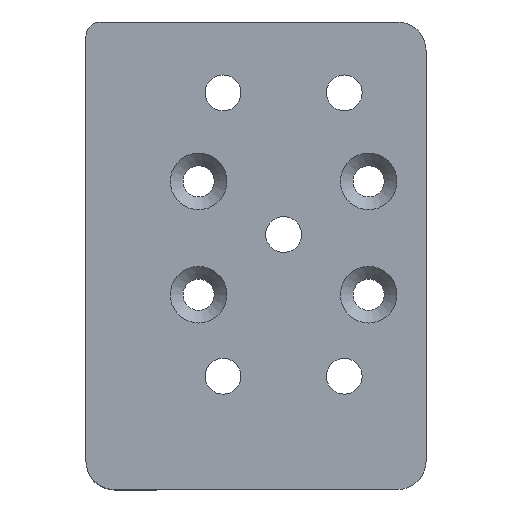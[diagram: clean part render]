
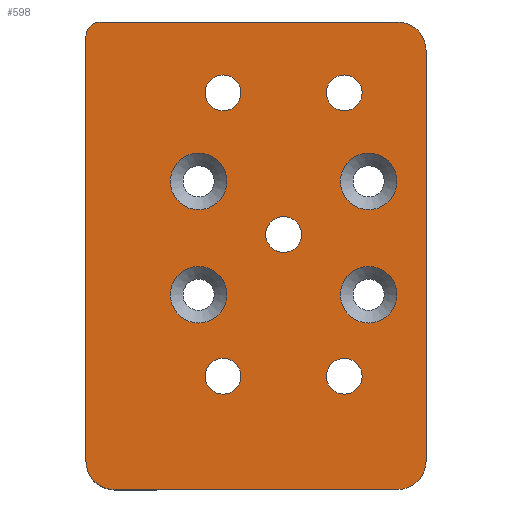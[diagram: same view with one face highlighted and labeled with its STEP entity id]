
A CAD part, top view. The second image highlights one B-rep face of the part: STEP entity #598.
In plain terms, the highlighted planar face has unit normal (0, 0, 1).
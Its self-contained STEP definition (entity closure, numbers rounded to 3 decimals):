
#30=FACE_BOUND('',#126,.T.);
#31=FACE_BOUND('',#127,.T.);
#32=FACE_BOUND('',#128,.T.);
#33=FACE_BOUND('',#129,.T.);
#34=FACE_BOUND('',#130,.T.);
#35=FACE_BOUND('',#131,.T.);
#36=FACE_BOUND('',#132,.T.);
#37=FACE_BOUND('',#133,.T.);
#38=FACE_BOUND('',#134,.T.);
#50=PLANE('',#680);
#82=FACE_OUTER_BOUND('',#125,.T.);
#125=EDGE_LOOP('',(#534,#535,#536,#537,#538,#539,#540,#541));
#126=EDGE_LOOP('',(#542));
#127=EDGE_LOOP('',(#543));
#128=EDGE_LOOP('',(#544));
#129=EDGE_LOOP('',(#545));
#130=EDGE_LOOP('',(#546));
#131=EDGE_LOOP('',(#547));
#132=EDGE_LOOP('',(#548));
#133=EDGE_LOOP('',(#549));
#134=EDGE_LOOP('',(#550));
#141=LINE('',#884,#185);
#147=LINE('',#919,#191);
#156=LINE('',#946,#200);
#178=LINE('',#1026,#222);
#185=VECTOR('',#699,10.);
#191=VECTOR('',#733,10.);
#200=VECTOR('',#760,10.);
#222=VECTOR('',#860,10.);
#224=CIRCLE('',#615,2.);
#236=CIRCLE('',#630,2.);
#239=CIRCLE('',#635,2.);
#241=CIRCLE('',#639,1.);
#246=CIRCLE('',#653,1.265);
#247=CIRCLE('',#655,1.265);
#248=CIRCLE('',#657,1.265);
#249=CIRCLE('',#659,1.265);
#250=CIRCLE('',#661,1.265);
#251=CIRCLE('',#663,2.);
#253=CIRCLE('',#667,2.);
#255=CIRCLE('',#671,2.);
#257=CIRCLE('',#675,2.);
#261=VERTEX_POINT('',#868);
#262=VERTEX_POINT('',#870);
#267=VERTEX_POINT('',#882);
#280=VERTEX_POINT('',#912);
#281=VERTEX_POINT('',#913);
#282=VERTEX_POINT('',#918);
#287=VERTEX_POINT('',#930);
#291=VERTEX_POINT('',#942);
#298=VERTEX_POINT('',#973);
#299=VERTEX_POINT('',#977);
#300=VERTEX_POINT('',#981);
#301=VERTEX_POINT('',#985);
#302=VERTEX_POINT('',#989);
#303=VERTEX_POINT('',#993);
#305=VERTEX_POINT('',#1001);
#307=VERTEX_POINT('',#1009);
#309=VERTEX_POINT('',#1017);
#313=EDGE_CURVE('',#261,#262,#224,.T.);
#320=EDGE_CURVE('',#267,#261,#141,.T.);
#334=EDGE_CURVE('',#280,#281,#236,.T.);
#337=EDGE_CURVE('',#281,#282,#147,.T.);
#343=EDGE_CURVE('',#282,#287,#239,.T.);
#350=EDGE_CURVE('',#291,#267,#241,.T.);
#351=EDGE_CURVE('',#287,#291,#156,.T.);
#364=EDGE_CURVE('',#298,#298,#246,.T.);
#366=EDGE_CURVE('',#299,#299,#247,.T.);
#368=EDGE_CURVE('',#300,#300,#248,.T.);
#370=EDGE_CURVE('',#301,#301,#249,.T.);
#372=EDGE_CURVE('',#302,#302,#250,.T.);
#374=EDGE_CURVE('',#303,#303,#251,.T.);
#378=EDGE_CURVE('',#305,#305,#253,.T.);
#382=EDGE_CURVE('',#307,#307,#255,.T.);
#386=EDGE_CURVE('',#309,#309,#257,.T.);
#390=EDGE_CURVE('',#280,#262,#178,.F.);
#534=ORIENTED_EDGE('',*,*,#313,.F.);
#535=ORIENTED_EDGE('',*,*,#320,.F.);
#536=ORIENTED_EDGE('',*,*,#350,.F.);
#537=ORIENTED_EDGE('',*,*,#351,.F.);
#538=ORIENTED_EDGE('',*,*,#343,.F.);
#539=ORIENTED_EDGE('',*,*,#337,.F.);
#540=ORIENTED_EDGE('',*,*,#334,.F.);
#541=ORIENTED_EDGE('',*,*,#390,.T.);
#542=ORIENTED_EDGE('',*,*,#364,.T.);
#543=ORIENTED_EDGE('',*,*,#366,.T.);
#544=ORIENTED_EDGE('',*,*,#368,.T.);
#545=ORIENTED_EDGE('',*,*,#370,.T.);
#546=ORIENTED_EDGE('',*,*,#372,.T.);
#547=ORIENTED_EDGE('',*,*,#374,.T.);
#548=ORIENTED_EDGE('',*,*,#378,.T.);
#549=ORIENTED_EDGE('',*,*,#382,.T.);
#550=ORIENTED_EDGE('',*,*,#386,.T.);
#598=ADVANCED_FACE('',(#82,#30,#31,#32,#33,#34,#35,#36,#37,#38),#50,.T.);
#615=AXIS2_PLACEMENT_3D('',#871,#688,#689);
#630=AXIS2_PLACEMENT_3D('',#914,#727,#728);
#635=AXIS2_PLACEMENT_3D('',#931,#743,#744);
#639=AXIS2_PLACEMENT_3D('',#944,#756,#757);
#653=AXIS2_PLACEMENT_3D('',#974,#793,#794);
#655=AXIS2_PLACEMENT_3D('',#978,#798,#799);
#657=AXIS2_PLACEMENT_3D('',#982,#803,#804);
#659=AXIS2_PLACEMENT_3D('',#986,#808,#809);
#661=AXIS2_PLACEMENT_3D('',#990,#813,#814);
#663=AXIS2_PLACEMENT_3D('',#994,#818,#819);
#667=AXIS2_PLACEMENT_3D('',#1002,#828,#829);
#671=AXIS2_PLACEMENT_3D('',#1010,#838,#839);
#675=AXIS2_PLACEMENT_3D('',#1018,#848,#849);
#680=AXIS2_PLACEMENT_3D('',#1027,#861,#862);
#688=DIRECTION('center_axis',(0.,0.,-1.));
#689=DIRECTION('ref_axis',(0.707,0.707,0.));
#699=DIRECTION('',(1.,0.,0.));
#727=DIRECTION('center_axis',(0.,0.,-1.));
#728=DIRECTION('ref_axis',(0.707,-0.707,0.));
#733=DIRECTION('',(-1.,0.,0.));
#743=DIRECTION('center_axis',(0.,0.,-1.));
#744=DIRECTION('ref_axis',(-0.707,-0.707,0.));
#756=DIRECTION('center_axis',(0.,0.,-1.));
#757=DIRECTION('ref_axis',(-0.707,0.707,0.));
#760=DIRECTION('',(0.,1.,0.));
#793=DIRECTION('center_axis',(0.,0.,-1.));
#794=DIRECTION('ref_axis',(1.,0.,0.));
#798=DIRECTION('center_axis',(0.,0.,-1.));
#799=DIRECTION('ref_axis',(1.,0.,0.));
#803=DIRECTION('center_axis',(0.,0.,-1.));
#804=DIRECTION('ref_axis',(1.,0.,0.));
#808=DIRECTION('center_axis',(0.,0.,-1.));
#809=DIRECTION('ref_axis',(1.,0.,0.));
#813=DIRECTION('center_axis',(0.,0.,-1.));
#814=DIRECTION('ref_axis',(1.,0.,0.));
#818=DIRECTION('center_axis',(0.,0.,-1.));
#819=DIRECTION('ref_axis',(1.,0.,0.));
#828=DIRECTION('center_axis',(0.,0.,-1.));
#829=DIRECTION('ref_axis',(1.,0.,0.));
#838=DIRECTION('center_axis',(0.,0.,-1.));
#839=DIRECTION('ref_axis',(1.,0.,0.));
#848=DIRECTION('center_axis',(0.,0.,-1.));
#849=DIRECTION('ref_axis',(1.,0.,0.));
#860=DIRECTION('',(0.,-1.,0.));
#861=DIRECTION('center_axis',(0.,0.,1.));
#862=DIRECTION('ref_axis',(1.,0.,0.));
#868=CARTESIAN_POINT('',(8.3,30.,29.));
#870=CARTESIAN_POINT('',(10.3,28.,29.));
#871=CARTESIAN_POINT('Origin',(8.3,28.,29.));
#882=CARTESIAN_POINT('',(-12.7,30.,29.));
#884=CARTESIAN_POINT('',(-12.,30.,29.));
#912=CARTESIAN_POINT('',(10.3,-1.,29.));
#913=CARTESIAN_POINT('',(8.3,-3.,29.));
#914=CARTESIAN_POINT('Origin',(8.3,-1.,29.));
#918=CARTESIAN_POINT('',(-11.7,-3.,29.));
#919=CARTESIAN_POINT('',(10.3,-3.,29.));
#930=CARTESIAN_POINT('',(-13.7,-1.,29.));
#931=CARTESIAN_POINT('Origin',(-11.7,-1.,29.));
#942=CARTESIAN_POINT('',(-13.7,29.,29.));
#944=CARTESIAN_POINT('Origin',(-12.7,29.,29.));
#946=CARTESIAN_POINT('',(-13.7,0.,29.));
#973=CARTESIAN_POINT('',(3.261,5.,29.));
#974=CARTESIAN_POINT('Origin',(4.525,5.,29.));
#977=CARTESIAN_POINT('',(3.261,25.,29.));
#978=CARTESIAN_POINT('Origin',(4.525,25.,29.));
#981=CARTESIAN_POINT('',(-5.289,25.,29.));
#982=CARTESIAN_POINT('Origin',(-4.025,25.,29.));
#985=CARTESIAN_POINT('',(-1.015,15.,29.));
#986=CARTESIAN_POINT('Origin',(0.25,15.,29.));
#989=CARTESIAN_POINT('',(-5.289,5.,29.));
#990=CARTESIAN_POINT('Origin',(-4.025,5.,29.));
#993=CARTESIAN_POINT('',(4.25,10.75,29.));
#994=CARTESIAN_POINT('Origin',(6.25,10.75,29.));
#1001=CARTESIAN_POINT('',(-7.75,10.75,29.));
#1002=CARTESIAN_POINT('Origin',(-5.75,10.75,29.));
#1009=CARTESIAN_POINT('',(-7.75,18.75,29.));
#1010=CARTESIAN_POINT('Origin',(-5.75,18.75,29.));
#1017=CARTESIAN_POINT('',(4.25,18.75,29.));
#1018=CARTESIAN_POINT('Origin',(6.25,18.75,29.));
#1026=CARTESIAN_POINT('',(10.3,0.,29.));
#1027=CARTESIAN_POINT('Origin',(-12.,0.,29.));
